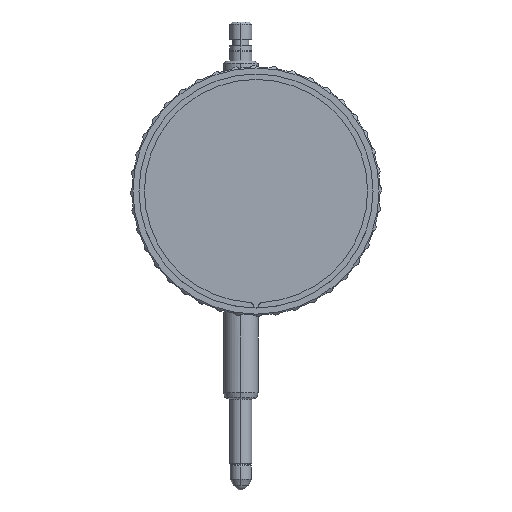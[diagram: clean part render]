
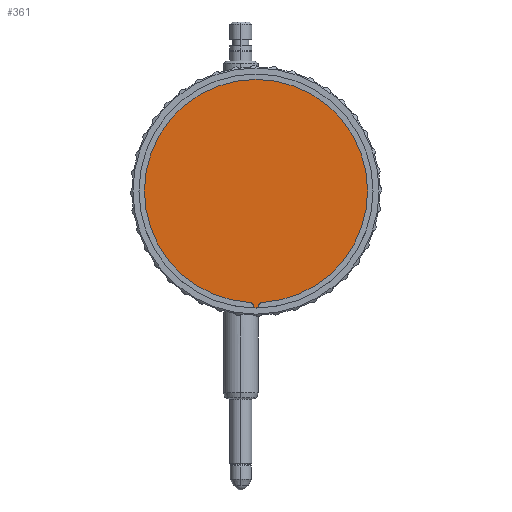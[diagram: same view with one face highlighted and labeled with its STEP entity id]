
A CAD part, front view. The second image highlights one B-rep face of the part: STEP entity #361.
In plain terms, the highlighted planar face has unit normal (0, -1, 0).
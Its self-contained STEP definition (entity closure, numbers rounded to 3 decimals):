
#361=ADVANCED_FACE('',(#1045),#1046,.F.);
#1045=FACE_OUTER_BOUND('',#1803,.T.);
#1046=PLANE('',#1804);
#1803=EDGE_LOOP('',(#4681,#4682,#4683,#4684,#4685,#4686,#4687,#4688));
#1804=AXIS2_PLACEMENT_3D('',#4689,#4690,#4691);
#4681=ORIENTED_EDGE('',*,*,#5198,.T.);
#4682=ORIENTED_EDGE('',*,*,#6047,.T.);
#4683=ORIENTED_EDGE('',*,*,#6048,.T.);
#4684=ORIENTED_EDGE('',*,*,#6049,.T.);
#4685=ORIENTED_EDGE('',*,*,#5204,.T.);
#4686=ORIENTED_EDGE('',*,*,#5209,.T.);
#4687=ORIENTED_EDGE('',*,*,#6050,.T.);
#4688=ORIENTED_EDGE('',*,*,#5207,.T.);
#4689=CARTESIAN_POINT('',(0.0,-13.8,0.0));
#4690=DIRECTION('',(0.0,1.0,0.0));
#4691=DIRECTION('',(-1.0,0.0,0.0));
#5198=EDGE_CURVE('',#6422,#6419,#6423,.T.);
#5204=EDGE_CURVE('',#6428,#6432,#6434,.T.);
#5207=EDGE_CURVE('',#6436,#6422,#6439,.T.);
#5209=EDGE_CURVE('',#6432,#6440,#6443,.T.);
#6047=EDGE_CURVE('',#6419,#7831,#7832,.T.);
#6048=EDGE_CURVE('',#7831,#7833,#7834,.T.);
#6049=EDGE_CURVE('',#7833,#6428,#7835,.T.);
#6050=EDGE_CURVE('',#6440,#6436,#7836,.T.);
#6419=VERTEX_POINT('',#8420);
#6422=VERTEX_POINT('',#8424);
#6423=CIRCLE('',#8425,0.875);
#6428=VERTEX_POINT('',#8431);
#6432=VERTEX_POINT('',#8436);
#6434=CIRCLE('',#8439,0.875);
#6436=VERTEX_POINT('',#8441);
#6439=CIRCLE('',#8445,25.75);
#6440=VERTEX_POINT('',#8446);
#6443=CIRCLE('',#8450,25.75);
#7831=VERTEX_POINT('',#13328);
#7832=CIRCLE('',#13329,0.875);
#7833=VERTEX_POINT('',#13330);
#7834=CIRCLE('',#13331,27.0);
#7835=CIRCLE('',#13332,0.875);
#7836=CIRCLE('',#13333,25.75);
#8420=CARTESIAN_POINT('',(-0.6,-13.8,-26.584));
#8424=CARTESIAN_POINT('',(-1.427,-13.8,-25.71));
#8425=AXIS2_PLACEMENT_3D('',#13715,#13716,#13717);
#8431=CARTESIAN_POINT('',(0.6,-13.8,-26.584));
#8436=CARTESIAN_POINT('',(1.427,-13.8,-25.71));
#8439=AXIS2_PLACEMENT_3D('',#13727,#13728,#13729);
#8441=CARTESIAN_POINT('',(-25.75,-13.8,0.));
#8445=AXIS2_PLACEMENT_3D('',#13734,#13735,#13736);
#8446=CARTESIAN_POINT('',(25.75,-13.8,0.));
#8450=AXIS2_PLACEMENT_3D('',#13738,#13739,#13740);
#13328=CARTESIAN_POINT('',(-0.7,-13.8,-26.991));
#13329=AXIS2_PLACEMENT_3D('',#14612,#14613,#14614);
#13330=CARTESIAN_POINT('',(0.7,-13.8,-26.991));
#13331=AXIS2_PLACEMENT_3D('',#14615,#14616,#14617);
#13332=AXIS2_PLACEMENT_3D('',#14618,#14619,#14620);
#13333=AXIS2_PLACEMENT_3D('',#14621,#14622,#14623);
#13715=CARTESIAN_POINT('',(-1.475,-13.8,-26.584));
#13716=DIRECTION('',(-0.0,1.0,0.0));
#13717=DIRECTION('',(1.0,0.0,0.0));
#13727=CARTESIAN_POINT('',(1.475,-13.8,-26.584));
#13728=DIRECTION('',(-0.0,1.0,0.0));
#13729=DIRECTION('',(1.0,0.0,0.0));
#13734=CARTESIAN_POINT('',(0.0,-13.8,0.0));
#13735=DIRECTION('',(0.0,-1.0,0.0));
#13736=DIRECTION('',(1.0,0.0,0.0));
#13738=CARTESIAN_POINT('',(0.0,-13.8,0.0));
#13739=DIRECTION('',(0.0,-1.0,0.0));
#13740=DIRECTION('',(1.0,0.0,0.0));
#14612=CARTESIAN_POINT('',(-1.475,-13.8,-26.584));
#14613=DIRECTION('',(-0.0,1.0,0.0));
#14614=DIRECTION('',(1.0,0.0,0.0));
#14615=CARTESIAN_POINT('',(0.0,-13.8,0.0));
#14616=DIRECTION('',(0.0,-1.0,0.0));
#14617=DIRECTION('',(-1.0,0.0,0.0));
#14618=CARTESIAN_POINT('',(1.475,-13.8,-26.584));
#14619=DIRECTION('',(-0.0,1.0,0.0));
#14620=DIRECTION('',(1.0,0.0,0.0));
#14621=CARTESIAN_POINT('',(0.0,-13.8,0.0));
#14622=DIRECTION('',(0.0,-1.0,0.0));
#14623=DIRECTION('',(1.0,0.0,0.0));
